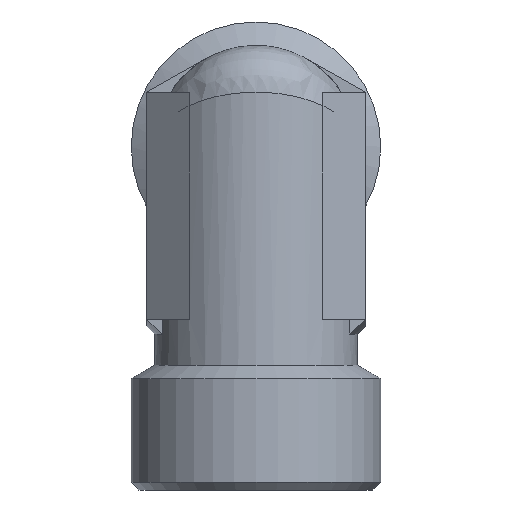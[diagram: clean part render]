
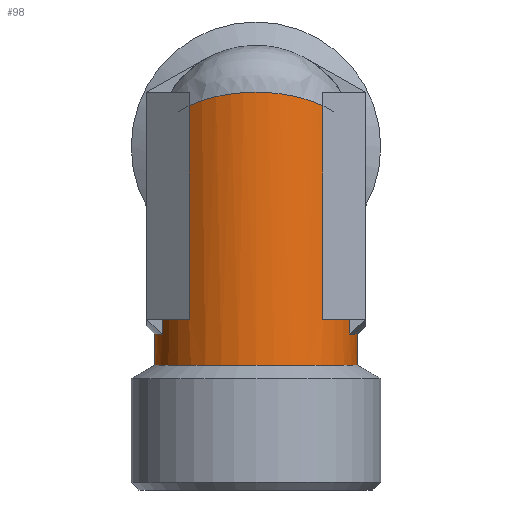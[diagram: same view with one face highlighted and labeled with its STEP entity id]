
A CAD part, left-side view. The second image highlights one B-rep face of the part: STEP entity #98.
In plain terms, the highlighted cylindrical face has radius 6.5 mm (diameter 13 mm), a full revolution.
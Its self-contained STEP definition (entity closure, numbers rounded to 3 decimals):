
#98 = ADVANCED_FACE( '', ( #244, #245 ), #246, .T. );
#244 = FACE_OUTER_BOUND( '', #449, .T. );
#245 = FACE_OUTER_BOUND( '', #450, .T. );
#246 = CYLINDRICAL_SURFACE( '', #451, 6.5 );
#449 = EDGE_LOOP( '', ( #1142, #1143, #1144, #1145, #1146, #1147, #1148, #1149, #1150, #1151, #1152, #1153 ) );
#450 = EDGE_LOOP( '', ( #1154 ) );
#451 = AXIS2_PLACEMENT_3D( '', #1155, #1156, #1157 );
#1142 = ORIENTED_EDGE( '', *, *, #1600, .T. );
#1143 = ORIENTED_EDGE( '', *, *, #1601, .F. );
#1144 = ORIENTED_EDGE( '', *, *, #1602, .F. );
#1145 = ORIENTED_EDGE( '', *, *, #1603, .T. );
#1146 = ORIENTED_EDGE( '', *, *, #1604, .F. );
#1147 = ORIENTED_EDGE( '', *, *, #1605, .T. );
#1148 = ORIENTED_EDGE( '', *, *, #1606, .F. );
#1149 = ORIENTED_EDGE( '', *, *, #1607, .T. );
#1150 = ORIENTED_EDGE( '', *, *, #1581, .F. );
#1151 = ORIENTED_EDGE( '', *, *, #1608, .T. );
#1152 = ORIENTED_EDGE( '', *, *, #1609, .F. );
#1153 = ORIENTED_EDGE( '', *, *, #1610, .T. );
#1154 = ORIENTED_EDGE( '', *, *, #1611, .F. );
#1155 = CARTESIAN_POINT( '', ( -25.5, 0., 6.5 ) );
#1156 = DIRECTION( '', ( 0., 0., 1. ) );
#1157 = DIRECTION( '', ( -1., 0., 0. ) );
#1581 = EDGE_CURVE( '', #1769, #1771, #1772, .T. );
#1600 = EDGE_CURVE( '', #1801, #1802, #1803, .T. );
#1601 = EDGE_CURVE( '', #1804, #1802, #1805, .T. );
#1602 = EDGE_CURVE( '', #1806, #1804, #1807, .F. );
#1603 = EDGE_CURVE( '', #1806, #1808, #1809, .T. );
#1604 = EDGE_CURVE( '', #1810, #1808, #1811, .T. );
#1605 = EDGE_CURVE( '', #1810, #1812, #1813, .F. );
#1606 = EDGE_CURVE( '', #1814, #1812, #1815, .F. );
#1607 = EDGE_CURVE( '', #1814, #1771, #1816, .T. );
#1608 = EDGE_CURVE( '', #1769, #1817, #1818, .T. );
#1609 = EDGE_CURVE( '', #1819, #1817, #1820, .T. );
#1610 = EDGE_CURVE( '', #1819, #1801, #1821, .F. );
#1611 = EDGE_CURVE( '', #1822, #1822, #1823, .T. );
#1769 = VERTEX_POINT( '', #2033 );
#1771 = VERTEX_POINT( '', #2036 );
#1772 = LINE( '', #2037, #2038 );
#1801 = VERTEX_POINT( '', #2087 );
#1802 = VERTEX_POINT( '', #2088 );
#1803 = LINE( '', #2089, #2090 );
#1804 = VERTEX_POINT( '', #2091 );
#1805 = CIRCLE( '', #2092, 6.5 );
#1806 = VERTEX_POINT( '', #2093 );
#1807 = LINE( '', #2094, #2095 );
#1808 = VERTEX_POINT( '', #2096 );
#1809 = CIRCLE( '', #2097, 6.5 );
#1810 = VERTEX_POINT( '', #2098 );
#1811 = LINE( '', #2099, #2100 );
#1812 = VERTEX_POINT( '', #2101 );
#1813 = ELLIPSE( '', #2102, 11.511, 6.5 );
#1814 = VERTEX_POINT( '', #2103 );
#1815 = LINE( '', #2104, #2105 );
#1816 = CIRCLE( '', #2106, 6.5 );
#1817 = VERTEX_POINT( '', #2107 );
#1818 = CIRCLE( '', #2108, 6.5 );
#1819 = VERTEX_POINT( '', #2109 );
#1820 = LINE( '', #2110, #2111 );
#1821 = ELLIPSE( '', #2112, 7.382, 6.5 );
#1822 = VERTEX_POINT( '', #2113 );
#1823 = CIRCLE( '', #2114, 6.5 );
#2033 = CARTESIAN_POINT( '', ( -28., -6., -11.067 ) );
#2036 = CARTESIAN_POINT( '', ( -28., -6., -12. ) );
#2037 = CARTESIAN_POINT( '', ( -28., -6., 6.5 ) );
#2038 = VECTOR( '', #2499, 1000. );
#2087 = CARTESIAN_POINT( '', ( -30.381, 4.292, 2.628 ) );
#2088 = CARTESIAN_POINT( '', ( -30.381, 4.292, -11.067 ) );
#2089 = CARTESIAN_POINT( '', ( -30.381, 4.292, 3.5 ) );
#2090 = VECTOR( '', #2523, 1000. );
#2091 = CARTESIAN_POINT( '', ( -28., 6., -11.067 ) );
#2092 = AXIS2_PLACEMENT_3D( '', #2524, #2525, #2526 );
#2093 = CARTESIAN_POINT( '', ( -28., 6., -12. ) );
#2094 = CARTESIAN_POINT( '', ( -28., 6., 6.5 ) );
#2095 = VECTOR( '', #2527, 1000. );
#2096 = CARTESIAN_POINT( '', ( -21., 4.69, -12. ) );
#2097 = AXIS2_PLACEMENT_3D( '', #2528, #2529, #2530 );
#2098 = CARTESIAN_POINT( '', ( -21., 4.69, -6.577 ) );
#2099 = CARTESIAN_POINT( '', ( -21., 4.69, 6.5 ) );
#2100 = VECTOR( '', #2531, 1000. );
#2101 = CARTESIAN_POINT( '', ( -21., -4.69, -6.577 ) );
#2102 = AXIS2_PLACEMENT_3D( '', #2532, #2533, #2534 );
#2103 = CARTESIAN_POINT( '', ( -21., -4.69, -12. ) );
#2104 = CARTESIAN_POINT( '', ( -21., -4.69, 6.5 ) );
#2105 = VECTOR( '', #2535, 1000. );
#2106 = AXIS2_PLACEMENT_3D( '', #2536, #2537, #2538 );
#2107 = CARTESIAN_POINT( '', ( -30.381, -4.292, -11.067 ) );
#2108 = AXIS2_PLACEMENT_3D( '', #2539, #2540, #2541 );
#2109 = CARTESIAN_POINT( '', ( -30.381, -4.292, 2.628 ) );
#2110 = CARTESIAN_POINT( '', ( -30.381, -4.292, 3.5 ) );
#2111 = VECTOR( '', #2542, 1000. );
#2112 = AXIS2_PLACEMENT_3D( '', #2543, #2544, #2545 );
#2113 = CARTESIAN_POINT( '', ( -32., 0., -14. ) );
#2114 = AXIS2_PLACEMENT_3D( '', #2546, #2547, #2548 );
#2499 = DIRECTION( '', ( 0., 0., -1. ) );
#2523 = DIRECTION( '', ( 0., 0., -1. ) );
#2524 = CARTESIAN_POINT( '', ( -25.5, 0., -11.067 ) );
#2525 = DIRECTION( '', ( 0., 0., 1. ) );
#2526 = DIRECTION( '', ( 1., 0., 0. ) );
#2527 = DIRECTION( '', ( 0., 0., -1. ) );
#2528 = CARTESIAN_POINT( '', ( -25.5, 0., -12. ) );
#2529 = DIRECTION( '', ( 0., 0., -1. ) );
#2530 = DIRECTION( '', ( -1., 0., 0. ) );
#2531 = DIRECTION( '', ( 0., 0., -1. ) );
#2532 = CARTESIAN_POINT( '', ( -25.5, 0., 0. ) );
#2533 = DIRECTION( '', ( 0.825, 0., 0.565 ) );
#2534 = DIRECTION( '', ( 0.565, 0., -0.825 ) );
#2535 = DIRECTION( '', ( 0., 0., -1. ) );
#2536 = CARTESIAN_POINT( '', ( -25.5, 0., -12. ) );
#2537 = DIRECTION( '', ( 0., 0., -1. ) );
#2538 = DIRECTION( '', ( -1., 0., 0. ) );
#2539 = CARTESIAN_POINT( '', ( -25.5, 0., -11.067 ) );
#2540 = DIRECTION( '', ( 0., 0., -1. ) );
#2541 = DIRECTION( '', ( 1., 0., 0. ) );
#2542 = DIRECTION( '', ( 0., 0., -1. ) );
#2543 = CARTESIAN_POINT( '', ( -25.5, 0., 0. ) );
#2544 = DIRECTION( '', ( 0.474, 0., 0.88 ) );
#2545 = DIRECTION( '', ( 0.88, 0., -0.474 ) );
#2546 = CARTESIAN_POINT( '', ( -25.5, 0., -14. ) );
#2547 = DIRECTION( '', ( 0., 0., -1. ) );
#2548 = DIRECTION( '', ( -1., 0., 0. ) );
